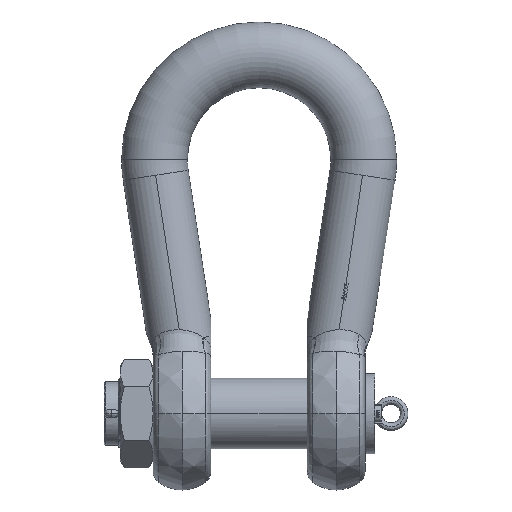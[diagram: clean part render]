
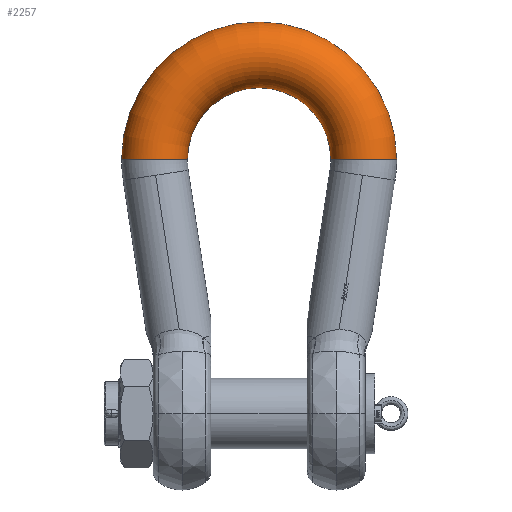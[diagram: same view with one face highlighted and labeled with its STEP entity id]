
A CAD part, front view. The second image highlights one B-rep face of the part: STEP entity #2257.
In plain terms, the highlighted toroidal (fillet/blend) face has major radius 222.5 mm and minor radius 69.995 mm.
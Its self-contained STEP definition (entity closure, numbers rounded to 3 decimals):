
#2257=ADVANCED_FACE('',(#5350),#5351,.T.);
#5350=FACE_OUTER_BOUND('',#11611,.T.);
#5351=TOROIDAL_SURFACE('',#11612,222.5,69.995);
#11611=EDGE_LOOP('',(#36207,#36208,#36209,#36210));
#11612=AXIS2_PLACEMENT_3D('',#36211,#36212,#36213);
#36207=ORIENTED_EDGE('',*,*,#47969,.T.);
#36208=ORIENTED_EDGE('',*,*,#47970,.F.);
#36209=ORIENTED_EDGE('',*,*,#47971,.T.);
#36210=ORIENTED_EDGE('',*,*,#47844,.F.);
#36211=CARTESIAN_POINT('',(0.0,0.0,540.5));
#36212=DIRECTION('',(0.0,-1.0,0.0));
#36213=DIRECTION('',(1.0,0.0,0.0));
#47844=EDGE_CURVE('',#55431,#55430,#55433,.F.);
#47969=EDGE_CURVE('',#55431,#55595,#55596,.F.);
#47970=EDGE_CURVE('',#55597,#55595,#55598,.T.);
#47971=EDGE_CURVE('',#55597,#55430,#55599,.T.);
#55430=VERTEX_POINT('',#70871);
#55431=VERTEX_POINT('',#70872);
#55433=CIRCLE('',#70874,69.995);
#55595=VERTEX_POINT('',#71212);
#55596=CIRCLE('',#71213,152.505);
#55597=VERTEX_POINT('',#71214);
#55598=B_SPLINE_CURVE_WITH_KNOTS('',5,(#71215,#71216,#71217,#71218,#71219,#71220,#71221,#71222,#71223,#71224,#71225,#71226,#71227,#71228,#71229,#71230,#71231,#71232,#71233,#71234,#71235,#71236,#71237,#71238),.UNSPECIFIED.,.F.,.F.,(6,3,3,3,3,3,3,6),(0.,46.37,92.741,139.111,185.481,231.852,278.222,310.977),.UNSPECIFIED.);
#55599=CIRCLE('',#71239,292.495);
#70871=CARTESIAN_POINT('',(-292.495,0.0,540.5));
#70872=CARTESIAN_POINT('',(-152.505,0.,540.5));
#70874=AXIS2_PLACEMENT_3D('',#105074,#105075,#105076);
#71212=CARTESIAN_POINT('',(152.505,0.,540.5));
#71213=AXIS2_PLACEMENT_3D('',#105081,#105082,#105083);
#71214=CARTESIAN_POINT('',(292.495,0.0,540.5));
#71215=CARTESIAN_POINT('',(292.495,0.,540.5));
#71216=CARTESIAN_POINT('',(292.495,-6.558,540.5));
#71217=CARTESIAN_POINT('',(291.727,-13.116,540.5));
#71218=CARTESIAN_POINT('',(290.191,-19.554,540.5));
#71219=CARTESIAN_POINT('',(285.64,-31.95,540.5));
#71220=CARTESIAN_POINT('',(278.347,-42.959,540.5));
#71221=CARTESIAN_POINT('',(274.07,-48.01,540.5));
#71222=CARTESIAN_POINT('',(264.412,-57.015,540.5));
#71223=CARTESIAN_POINT('',(252.935,-63.546,540.5));
#71224=CARTESIAN_POINT('',(246.838,-66.122,540.5));
#71225=CARTESIAN_POINT('',(234.154,-69.797,540.5));
#71226=CARTESIAN_POINT('',(220.965,-70.442,540.5));
#71227=CARTESIAN_POINT('',(214.362,-69.987,540.5));
#71228=CARTESIAN_POINT('',(201.385,-67.539,540.5));
#71229=CARTESIAN_POINT('',(189.326,-62.16,540.5));
#71230=CARTESIAN_POINT('',(183.639,-58.773,540.5));
#71231=CARTESIAN_POINT('',(173.166,-50.73,540.5));
#71232=CARTESIAN_POINT('',(164.834,-40.485,540.5));
#71233=CARTESIAN_POINT('',(161.29,-34.895,540.5));
#71234=CARTESIAN_POINT('',(156.415,-24.738,540.5));
#71235=CARTESIAN_POINT('',(153.655,-13.855,540.5));
#71236=CARTESIAN_POINT('',(152.888,-9.265,540.5));
#71237=CARTESIAN_POINT('',(152.505,-4.632,540.5));
#71238=CARTESIAN_POINT('',(152.505,0.,540.5));
#71239=AXIS2_PLACEMENT_3D('',#105084,#105085,#105086);
#105074=CARTESIAN_POINT('',(-222.5,0.0,540.5));
#105075=DIRECTION('',(0.,0.0,1.0));
#105076=DIRECTION('',(-1.0,0.0,0.));
#105081=CARTESIAN_POINT('',(0.0,0.,540.5));
#105082=DIRECTION('',(0.0,-1.0,0.0));
#105083=DIRECTION('',(-1.0,0.0,0.0));
#105084=CARTESIAN_POINT('',(0.0,0.,540.5));
#105085=DIRECTION('',(0.0,-1.0,0.0));
#105086=DIRECTION('',(-1.0,0.0,0.0));
